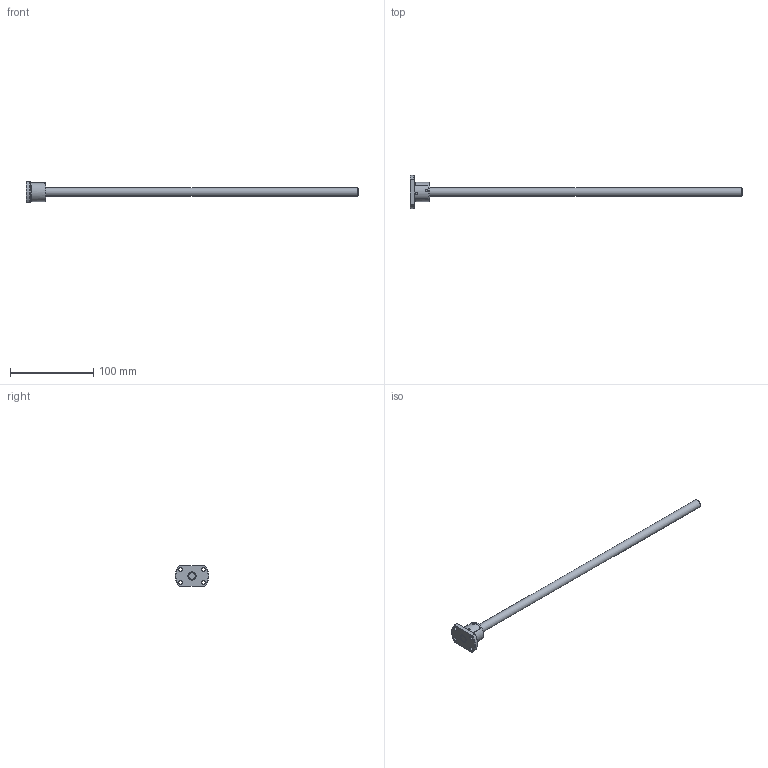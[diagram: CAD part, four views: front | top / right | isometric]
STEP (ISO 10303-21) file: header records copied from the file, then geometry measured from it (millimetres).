
FILE_DESCRIPTION( ( 'STEP AP203' ), '1' );
FILE_NAME( 'e:/temp/worker_65/temp/exporttempdir_236_1819_L0VAg/format_0/SSR1002 (0).stp', '2021-10-19T07:23:20', ( 'License CC BY-ND 4.0' ), ( 'CADENAS' ), ' ', 'PARTsolutions', ' ' );
FILE_SCHEMA( ( 'CONFIG_CONTROL_DESIGN' ) );
Length unit declared in the file: millimetre
Products named in the file (3): SSR1002 (0); _SSR1002 Shaft; _SSR1002 Nut
Assembly tree (2 placements, depth 2):
  SSR1002 (0)
    _SSR1002 Shaft
    _SSR1002 Nut
Bounding box: 400 x 40 x 25 mm (x, y, z)
Volume: 41550.2 mm3; surface area: 17271.1 mm2
Topology: 2 solids, 2 shells, 47 faces, 111 edges, 73 vertices
Faces by surface type: plane 22, cylinder 18, cone 7
Full cylindrical faces by diameter (mm): 2.5 x1, 4.5 x4, 10 x2, 22.5 x1, 23 x1
Entity records: 1476 total; most frequent: CARTESIAN_POINT 307, DIRECTION 230, ORIENTED_EDGE 192, EDGE_CURVE 96, AXIS2_PLACEMENT_3D 95, EDGE_LOOP 74, VERTEX_POINT 70, FACE_OUTER_BOUND 56
